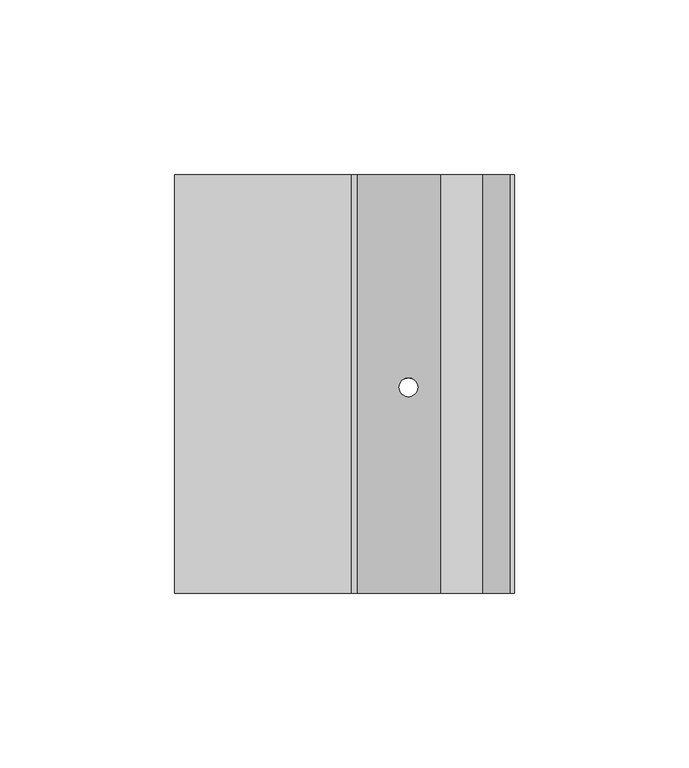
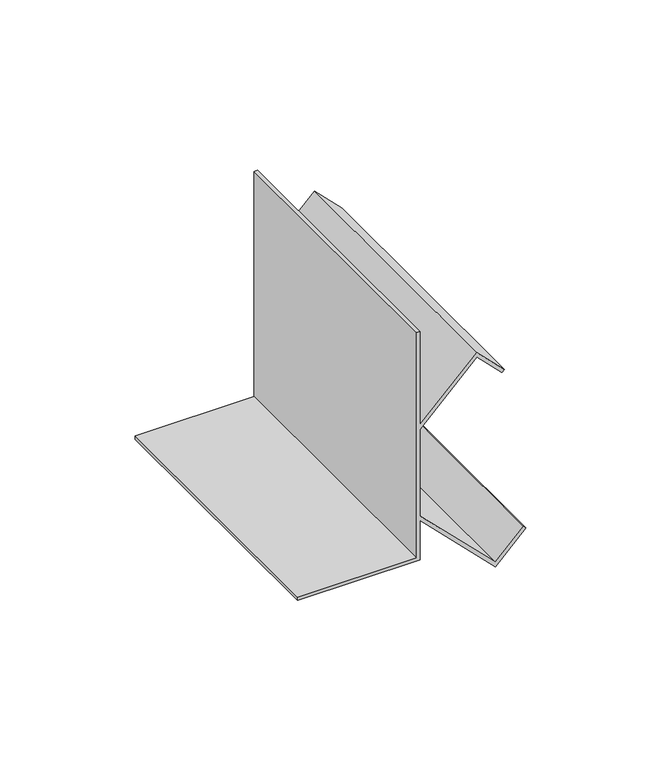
"""IFC4 building model written with IfcOpenShell, lengths in millimetres: proxy geometry, Mechanical Fittings & Accessories20 : Mechanical Fittings & Accessories."""

from ifc_helpers import new_model, si_unit, frame, origin, place, context, project, spatial, polyline, ellipse_curve, source, transform, mapped, element, save
from ifc_brep_helpers import plane_surface, revolved_surface, advanced_brep


def generic_models_487557fa(model_context):
    return source(origin(), model_context, "Body", "AdvancedBrep", [
        advanced_brep(
        [(-12208.7639562, 12023.4963986, 4114.8), (-12259.5639562, 12023.4963986, 4114.8), (-12259.5639562, 12023.4963986, 4113.3117188), (-12207.275675, 12023.4963986, 4113.3117188), (-12207.275675, 12023.4963986, 4131.1383509), (-12175.165914, 12023.4963986, 4099.0285899), (-12162.1869427, 12023.4963986, 4112.0075612), (-12163.2393164, 12023.4963986, 4113.059935), (-12175.165914, 12023.4963986, 4101.1333374), (-12207.275675, 12023.4963986, 4133.2430984), (-12207.275675, 12023.4963986, 4172.2761118), (-12183.103414, 12023.4963986, 4196.4483729), (-12172.3674414, 12023.4963986, 4185.7124003), (-12171.3150677, 12023.4963986, 4186.7647741), (-12183.103414, 12023.4963986, 4198.5531204), (-12207.275675, 12023.4963986, 4174.3808594), (-12207.275675, 12023.4963986, 4216.4), (-12208.7639562, 12023.4963986, 4216.4), (-12208.7639562, 12143.4645457, 4114.8), (-12208.7639562, 12143.4645457, 4216.4), (-12207.275675, 12143.4645457, 4216.4), (-12207.275675, 12143.4645457, 4174.3808594), (-12183.103414, 12143.4645457, 4198.5531204), (-12171.3150677, 12143.4645457, 4186.7647741), (-12172.3674414, 12143.4645457, 4185.7124003), (-12183.103414, 12143.4645457, 4196.4483729), (-12207.275675, 12143.4645457, 4172.2761118), (-12207.275675, 12143.4645457, 4133.2430984), (-12175.165914, 12143.4645457, 4101.1333374), (-12163.2393164, 12143.4645457, 4113.059935), (-12162.1869427, 12143.4645457, 4112.0075612), (-12175.165914, 12143.4645457, 4099.0285899), (-12207.275675, 12143.4645457, 4131.1383509), (-12207.275675, 12143.4645457, 4113.3117188), (-12259.5639562, 12143.4645457, 4113.3117188), (-12259.5639562, 12143.4645457, 4114.8), (-12195.1617646, 12082.5191481, 4119.0244406), (-12189.8223978, 12082.5191481, 4113.6850737), (-12189.8223978, 12082.5191481, 4115.7898213), (-12195.1617646, 12082.5191481, 4121.1291881), (-12195.1617646, 12082.5191481, 4184.3900222), (-12189.8223978, 12082.5191481, 4189.729389), (-12189.8223978, 12082.5191481, 4191.8341365), (-12195.1617646, 12082.5191481, 4186.4947697)],
        [
            (0, 1),
            (1, 2),
            (2, 3),
            (3, 4),
            (4, 5),
            (5, 6),
            (6, 7),
            (7, 8),
            (8, 9),
            (9, 10),
            (10, 11),
            (11, 12),
            (12, 13),
            (13, 14),
            (14, 15),
            (15, 16),
            (16, 17),
            (17, 0),
            (18, 19),
            (19, 20),
            (20, 21),
            (21, 22),
            (22, 23),
            (23, 24),
            (24, 25),
            (25, 26),
            (26, 27),
            (27, 28),
            (28, 29),
            (29, 30),
            (30, 31),
            (31, 32),
            (32, 33),
            (33, 34),
            (34, 35),
            (35, 18),
            (0, 18),
            (35, 1),
            (34, 2),
            (33, 3),
            (32, 4),
            (31, 5),
            (36, 37, ellipse_curve(frame((-12192.4920812, 12082.5191481, 4116.3547571), z_axis=(0.7071067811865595, 0.0, 0.7071067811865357), x_axis=(-0.7071067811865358, 0.0, 0.7071067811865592)), 3.7755025, 2.6696834)),
            (37, 36, ellipse_curve(frame((-12192.4920812, 12082.5191481, 4116.3547571), z_axis=(0.7071067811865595, 0.0, 0.7071067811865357), x_axis=(-0.7071067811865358, 0.0, 0.7071067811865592)), 3.7755025, 2.6696834)),
            (30, 6),
            (29, 7),
            (28, 8),
            (27, 9),
            (38, 39, ellipse_curve(frame((-12192.4920812, 12082.5191481, 4118.4595047), z_axis=(-0.7071067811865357, 0.0, -0.7071067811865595), x_axis=(-0.7071067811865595, 0.0, 0.7071067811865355)), 3.7755025, 2.6696834)),
            (39, 38, ellipse_curve(frame((-12192.4920812, 12082.5191481, 4118.4595047), z_axis=(-0.7071067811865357, 0.0, -0.7071067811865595), x_axis=(-0.7071067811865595, 0.0, 0.7071067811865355)), 3.7755025, 2.6696834)),
            (26, 10),
            (25, 11),
            (40, 41, ellipse_curve(frame((-12192.4920812, 12082.5191481, 4187.0597056), z_axis=(-0.7071067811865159, 0.0, 0.7071067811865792), x_axis=(0.7071067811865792, 0.0, 0.7071067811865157)), 3.7755025, 2.6696834)),
            (41, 40, ellipse_curve(frame((-12192.4920812, 12082.5191481, 4187.0597056), z_axis=(-0.7071067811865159, 0.0, 0.7071067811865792), x_axis=(0.7071067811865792, 0.0, 0.7071067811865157)), 3.7755025, 2.6696834)),
            (24, 12),
            (23, 13),
            (22, 14),
            (21, 15),
            (42, 43, ellipse_curve(frame((-12192.4920812, 12082.5191481, 4189.1644531), z_axis=(0.7071067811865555, 0.0, -0.7071067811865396), x_axis=(0.7071067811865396, 0.0, 0.7071067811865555)), 3.7755025, 2.6696834)),
            (43, 42, ellipse_curve(frame((-12192.4920812, 12082.5191481, 4189.1644531), z_axis=(0.7071067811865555, 0.0, -0.7071067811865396), x_axis=(0.7071067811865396, 0.0, 0.7071067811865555)), 3.7755025, 2.6696834)),
            (20, 16),
            (19, 17),
            (36, 39),
            (38, 37),
            (40, 43),
            (42, 41),
        ],
        [
            plane_surface(frame((-12259.5639562, 12023.4963986, 4114.8), z_axis=(0.0, -1.0, 0.0), x_axis=(-1.0, 0.0, 0.0))),
            plane_surface(frame((-12259.5639562, 12143.4645457, 4114.8), z_axis=(0.0, 1.0, 0.0), x_axis=(1.0, 0.0, 0.0))),
            plane_surface(frame((-12208.7639562, 12023.4963986, 4114.8), z_axis=(0.0, 0.0, 1.0), x_axis=(0.0, 1.0, 0.0))),
            plane_surface(frame((-12259.5639562, 12023.4963986, 4114.8), z_axis=(-1.0, 0.0, 0.0), x_axis=(0.0, 1.0, 0.0))),
            plane_surface(frame((-12259.5639562, 12023.4963986, 4113.3117188), z_axis=(0.0, 0.0, -1.0), x_axis=(0.0, 1.0, 0.0))),
            plane_surface(frame((-12207.275675, 12023.4963986, 4113.3117188), z_axis=(1.0, 0.0, 0.0), x_axis=(0.0, 1.0, 0.0))),
            plane_surface(frame((-12207.275675, 12023.4963986, 4131.1383509), z_axis=(-0.7071067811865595, 0.0, -0.7071067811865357), x_axis=(0.0, 1.0, 0.0))),
            plane_surface(frame((-12175.165914, 12023.4963986, 4099.0285899), z_axis=(0.7071067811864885, 0.0, -0.7071067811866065), x_axis=(0.0, 1.0, 0.0))),
            plane_surface(frame((-12162.1869427, 12023.4963986, 4112.0075612), z_axis=(0.7071067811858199, 0.0, 0.7071067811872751), x_axis=(0.0, 1.0, 0.0))),
            plane_surface(frame((-12163.2393164, 12023.4963986, 4113.059935), z_axis=(-0.7071067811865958, 0.0, 0.7071067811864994), x_axis=(0.0, 1.0, 0.0))),
            plane_surface(frame((-12175.165914, 12023.4963986, 4101.1333374), z_axis=(0.7071067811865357, 0.0, 0.7071067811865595), x_axis=(0.0, 1.0, 0.0))),
            plane_surface(frame((-12207.275675, 12023.4963986, 4133.2430984), z_axis=(1.0, 0.0, 0.0), x_axis=(0.0, 1.0, 0.0))),
            plane_surface(frame((-12207.275675, 12023.4963986, 4172.2761118), z_axis=(0.7071067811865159, 0.0, -0.7071067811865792), x_axis=(0.0, 1.0, 0.0))),
            plane_surface(frame((-12183.103414, 12023.4963986, 4196.4483729), z_axis=(-0.7071067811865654, 0.0, -0.7071067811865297), x_axis=(0.0, 1.0, 0.0))),
            plane_surface(frame((-12172.3674414, 12023.4963986, 4185.7124003), z_axis=(0.7071067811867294, 0.0, -0.7071067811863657), x_axis=(0.0, 1.0, 0.0))),
            plane_surface(frame((-12171.3150677, 12023.4963986, 4186.7647741), z_axis=(0.707106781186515, 0.0, 0.70710678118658), x_axis=(0.0, 1.0, 0.0))),
            plane_surface(frame((-12183.103414, 12023.4963986, 4198.5531204), z_axis=(-0.7071067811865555, 0.0, 0.7071067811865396), x_axis=(0.0, 1.0, 0.0))),
            plane_surface(frame((-12207.275675, 12023.4963986, 4174.3808594), z_axis=(1.0, 0.0, 0.0), x_axis=(0.0, 1.0, 0.0))),
            plane_surface(frame((-12207.275675, 12023.4963986, 4216.4), z_axis=(0.0, 0.0, 1.0), x_axis=(0.0, 1.0, 0.0))),
            plane_surface(frame((-12208.7639562, 12023.4963986, 4216.4), z_axis=(-1.0, 0.0, 0.0), x_axis=(0.0, 1.0, 0.0))),
            revolved_surface(polyline([(-12189.8223978, 12082.5191481, 4121.129188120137), (-12189.8223978, 12082.5191481, 4113.685073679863)]), (-12192.4920812, 12082.5191481, 4097.2034211), (0.0, 0.0, 1.0)),
            revolved_surface(polyline([(-12189.8223978, 12082.5191481, 4191.834136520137), (-12189.8223978, 12082.5191481, 4184.390022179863)]), (-12192.4920812, 12082.5191481, 4097.2034211), (0.0, 0.0, 1.0)),
        ],
        [
            (0, [[1, 2, 3, 4, 5, 6, 7, 8, 9, 10, 11, 12, 13, 14, 15, 16, 17, 18]]),
            (1, [[19, 20, 21, 22, 23, 24, 25, 26, 27, 28, 29, 30, 31, 32, 33, 34, 35, 36]]),
            (2, [[-1, 37, -36, 38]]),
            (3, [[-2, -38, -35, 39]]),
            (4, [[-3, -39, -34, 40]]),
            (5, [[-4, -40, -33, 41]]),
            (6, [[-5, -41, -32, 42], [43, 44]]),
            (7, [[-6, -42, -31, 45]]),
            (8, [[-7, -45, -30, 46]]),
            (9, [[-8, -46, -29, 47]]),
            (10, [[-9, -47, -28, 48], [49, 50]]),
            (11, [[-10, -48, -27, 51]]),
            (12, [[-11, -51, -26, 52], [53, 54]]),
            (13, [[-12, -52, -25, 55]]),
            (14, [[-13, -55, -24, 56]]),
            (15, [[-14, -56, -23, 57]]),
            (16, [[-15, -57, -22, 58], [59, 60]]),
            (17, [[-16, -58, -21, 61]]),
            (18, [[-17, -61, -20, 62]]),
            (19, [[-18, -62, -19, -37]]),
            (20, [[63, -49, 64, -43]]),
            (21, [[65, -59, 66, -53]]),
            (20, [[-63, -44, -64, -50]]),
            (21, [[-65, -54, -66, -60]]),
        ],
    ),
    ])


if __name__ == "__main__":
    model = new_model("IFC4")
    model_context = context("Model", 3, world=origin())
    ifc_project = project(units=[si_unit("LENGTHUNIT", "METRE", prefix="MILLI")], contexts=[model_context])
    site = spatial("IfcSite", under=ifc_project)
    building = spatial("IfcBuilding", under=site)
    placement = place(None, origin())
    generic_models_shape = generic_models_487557fa(model_context)
    element("IfcBuildingElementProxy", 1, Name="Mechanical Fittings & Accessories20 : Mechanical Fittings & Accessories", ObjectType="Mechanical Fittings & Accessories20 : Mechanical Fittings & Accessories", at=placement, inside=building, context=model_context, shape_type="MappedRepresentation", body=[
        mapped(generic_models_shape, transform((0.0, 0.0, 0.0), x_axis=(1.0, 0.0, 0.0), y_axis=(0.0, 1.0, 0.0), z_axis=(0.0, 0.0, 1.0))),
    ])
    save(model, "model.ifc")
